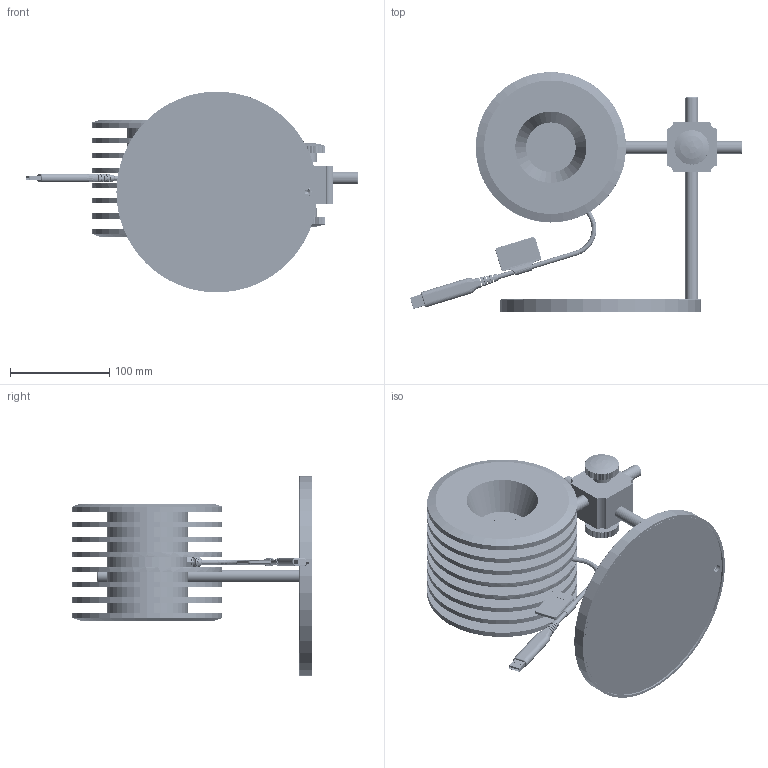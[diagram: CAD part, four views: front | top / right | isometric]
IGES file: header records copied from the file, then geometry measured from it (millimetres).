
Start section: SolidWorks IGES file using analytic representation for surfaces
Global section: file name: N:\POR\Public\PLMProductInfo\1223336 PowerMax USB - PM150-50\1223336 with stand.IGS; native system: SolidWorks 2012; preprocessor: SolidWorks 2012; author: lewisd; date: 130603.110059; units: inch
Bounding box: 333.95 x 240.92 x 201.93 mm (x, y, z)
Surface area: 433535.4 mm2 (no closed solid volume)
Topology: 0 solids, 0 shells, 3390 faces, 49116 edges, 49080 vertices
Faces by surface type: revolution 2201, bspline 1189
